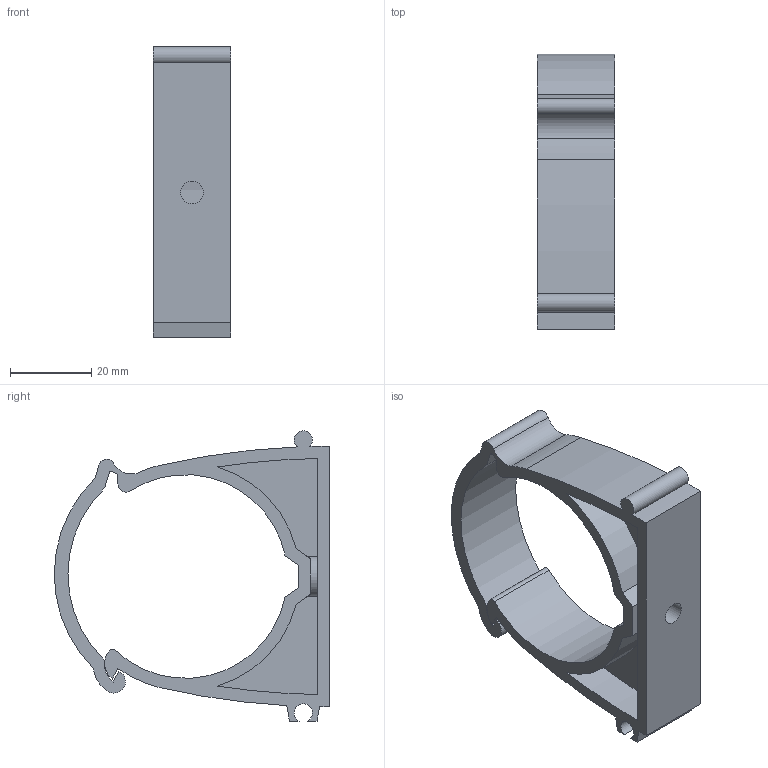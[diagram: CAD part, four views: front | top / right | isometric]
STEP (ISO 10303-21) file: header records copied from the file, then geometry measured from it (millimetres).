
FILE_DESCRIPTION(('STEP AP203'), '1');
FILE_NAME('ÂÐ.745222.005 - VT.KP.F.050', '', ('UNSPECIFIED'), ('UNSPECIFIED'), 'C3D Converter', 'C3D Toolkit', '');
FILE_SCHEMA(('CONFIG_CONTROL_DESIGN'));
Length unit declared in the file: millimetre
Products named in the file (1): ВР.745222.005
Bounding box: 19 x 67.63 x 71.25 mm (x, y, z)
Volume: 20079.9 mm3; surface area: 15168.2 mm2
Topology: 1 solids, 1 shells, 172 faces, 474 edges, 315 vertices
Faces by surface type: plane 75, extrusion 64, cylinder 33
Full cylindrical faces by diameter (mm): 5.5 x1
Entity records: 5588 total; most frequent: CARTESIAN_POINT 1357, ORIENTED_EDGE 946, DIRECTION 690, EDGE_CURVE 473, VECTOR 338, VERTEX_POINT 315, LINE 274, B_SPLINE_CURVE_WITH_KNOTS 192
